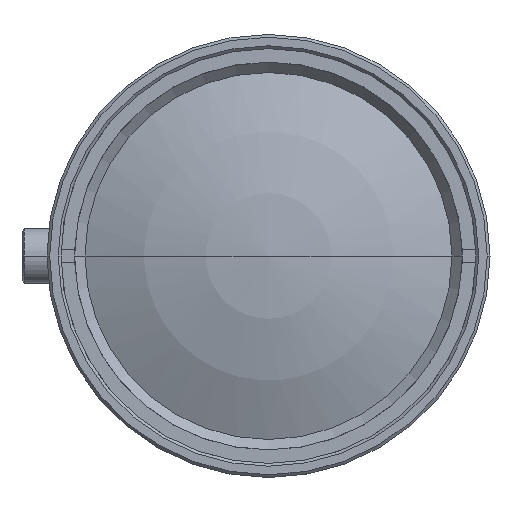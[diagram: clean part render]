
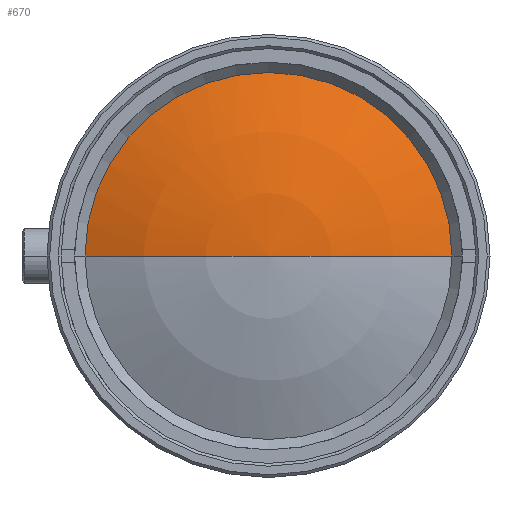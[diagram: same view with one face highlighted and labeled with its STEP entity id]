
A CAD part, left-side view. The second image highlights one B-rep face of the part: STEP entity #670.
In plain terms, the highlighted spherical face has radius 32.276 mm.
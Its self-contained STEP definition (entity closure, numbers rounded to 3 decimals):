
#380=CARTESIAN_POINT('',(-14.287,0.,0.));
#390=DIRECTION('',(-1.,0.,0.));
#400=DIRECTION('',(0.,1.,0.));
#410=AXIS2_PLACEMENT_3D('',#380,#390,#400);
#420=SPHERICAL_SURFACE('',#410,32.276);
#430=CARTESIAN_POINT('',(-14.287,0.,0.));
#440=DIRECTION('',(0.,0.,-1.));
#450=DIRECTION('',(1.,-0.,0.));
#460=AXIS2_PLACEMENT_3D('',#430,#440,#450);
#470=CIRCLE('',#460,32.276);
#480=CARTESIAN_POINT('',(-43.718,-13.25,0.));
#490=VERTEX_POINT('',#480);
#500=CARTESIAN_POINT('',(-46.563,0.,0.));
#510=VERTEX_POINT('',#500);
#520=EDGE_CURVE('',#490,#510,#470,.T.);
#530=ORIENTED_EDGE('',*,*,#520,.F.);
#540=CARTESIAN_POINT('',(-43.718,13.25,0.));
#550=VERTEX_POINT('',#540);
#560=EDGE_CURVE('',#510,#550,#470,.T.);
#570=ORIENTED_EDGE('',*,*,#560,.F.);
#580=CARTESIAN_POINT('',(-43.718,0.,0.));
#590=DIRECTION('',(-1.,0.,0.));
#600=DIRECTION('',(0.,1.,0.));
#610=AXIS2_PLACEMENT_3D('',#580,#590,#600);
#620=CIRCLE('',#610,13.25);
#630=EDGE_CURVE('',#490,#550,#620,.T.);
#640=ORIENTED_EDGE('',*,*,#630,.T.);
#650=EDGE_LOOP('',(#640,#570,#530));
#660=FACE_OUTER_BOUND('',#650,.T.);
#670=ADVANCED_FACE('',(#660),#420,.T.);
